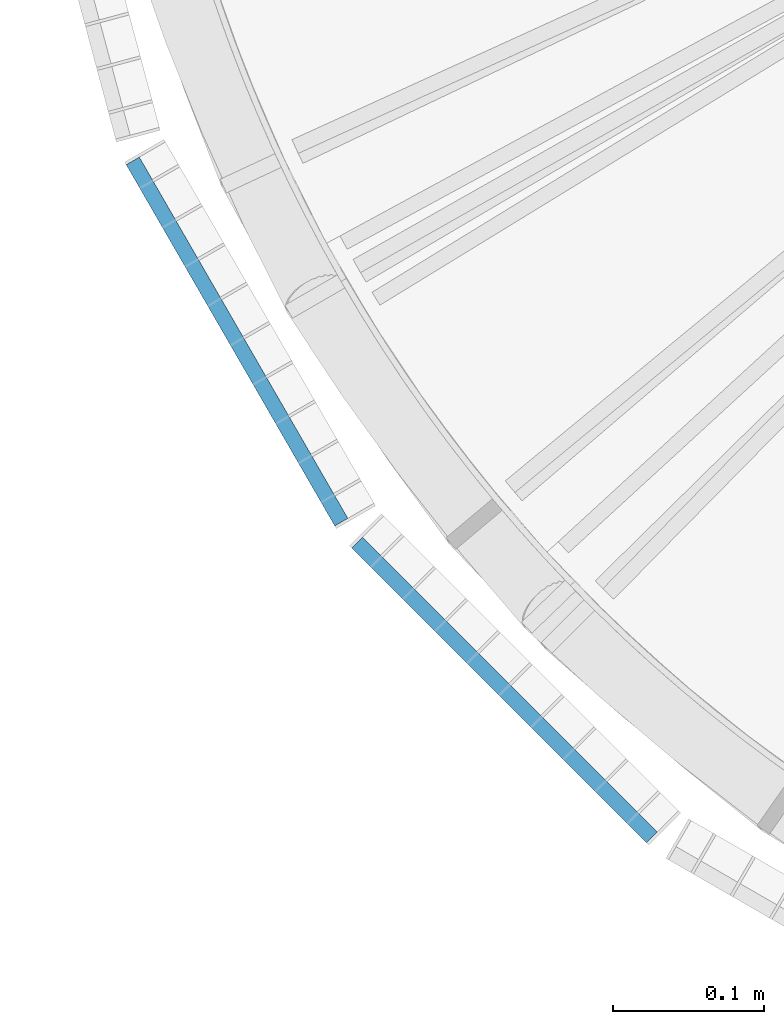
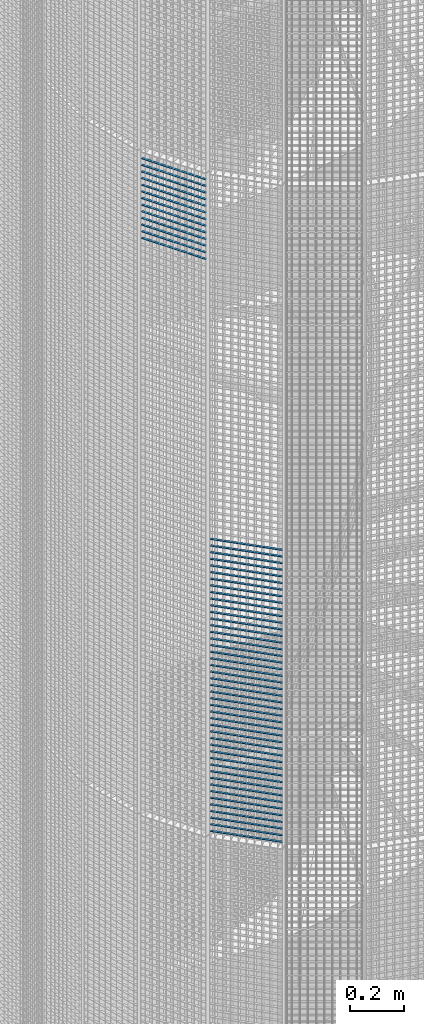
# One storey, part 110 of 1183: 58 beams, 2 elements without a shape of their own.
"""IFC2X3 building model written with IfcOpenShell, lengths in millimetres."""

from ifc_helpers import new_model, si_unit, frame, origin_with_axes, origin_2d_with_axis, place, context, subcontext, project, spatial, rectangle, extrude, material, type_object, element, aggregate, save


model = new_model("IFC2X3")

# Units and contexts
model_context = context("Model", 3, precision=1e-05, world=origin_with_axes())
body_context = subcontext(model_context, "Body", "Model", "MODEL_VIEW")
ifc_project = project(units=[si_unit("LENGTHUNIT", "METRE", prefix="MILLI"), si_unit("AREAUNIT", "SQUARE_METRE"), si_unit("VOLUMEUNIT", "CUBIC_METRE"), si_unit("MASSUNIT", "GRAM", prefix="KILO"), si_unit("TIMEUNIT", "SECOND"), si_unit("PLANEANGLEUNIT", "RADIAN"), si_unit("SOLIDANGLEUNIT", "STERADIAN"), si_unit("THERMODYNAMICTEMPERATUREUNIT", "DEGREE_CELSIUS"), si_unit("LUMINOUSINTENSITYUNIT", "LUMEN")], contexts=[model_context])

# Site, building, storey
site_placement = place(None, origin_with_axes())
site = spatial("IfcSite", under=ifc_project, at=site_placement, Name="Undefined", CompositionType="ELEMENT")
building_placement = place(site_placement, origin_with_axes())
building = spatial("IfcBuilding", under=site, at=building_placement, Name="Undefined", CompositionType="ELEMENT")
storey_placement = place(building_placement, origin_with_axes())
storey = spatial("IfcBuildingStorey", under=building, at=storey_placement, Name="Undefined", CompositionType="ELEMENT", Elevation=0.0)

# Assembly, beams
assembly_1_placement = place(storey_placement, origin_with_axes())
assembly_1 = element("IfcElementAssembly", 1, at=assembly_1_placement, inside=storey, Name="BORDURE", AssemblyPlace="NOTDEFINED", PredefinedType="NOTDEFINED")
ifc_material = material(Name="STEEL/S235JR")
beam_type = type_object("IfcBeamType", Name="PL2*10", PredefinedType="NOTDEFINED")
beam_1_placement = place(assembly_1_placement, frame((-884.927168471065, -689.771348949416, 13350.0), z_axis=(-0.70710678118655, -0.707106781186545, 0.0), x_axis=(0.707106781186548, -0.707106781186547, 0.0)))
beam_1 = element("IfcBeam", 2, at=beam_1_placement, type_object=beam_type, material=ifc_material, Name="ENTRETOISE", context=body_context, shape_type="SweptSolid", body=[
    extrude(rectangle(XDim=2.0, YDim=10.0, at=origin_2d_with_axis()), frame((275.999999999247, 9.09494701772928e-13, 1.53210777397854e-14), z_axis=(-1.0, 0.0, 0.0), x_axis=(0.0, -1.0, 0.0)), (0.0, 0.0, 1.0), 276.0),
])
beam_2_placement = place(assembly_1_placement, frame((-884.927168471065, -689.771348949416, 13320.0), z_axis=(-0.70710678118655, -0.707106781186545, 0.0), x_axis=(0.707106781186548, -0.707106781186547, 0.0)))
beam_2 = element("IfcBeam", 3, at=beam_2_placement, type_object=beam_type, material=ifc_material, Name="ENTRETOISE", context=body_context, shape_type="SweptSolid", body=[
    extrude(rectangle(XDim=2.0, YDim=10.0, at=origin_2d_with_axis()), frame((275.999999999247, 9.09494701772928e-13, 1.53210777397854e-14), z_axis=(-1.0, 0.0, 0.0), x_axis=(0.0, -1.0, 0.0)), (0.0, 0.0, 1.0), 276.0),
])
beam_3_placement = place(assembly_1_placement, frame((-884.927168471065, -689.771348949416, 13290.0), z_axis=(-0.70710678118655, -0.707106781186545, 0.0), x_axis=(0.707106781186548, -0.707106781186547, 0.0)))
beam_3 = element("IfcBeam", 4, at=beam_3_placement, type_object=beam_type, material=ifc_material, Name="ENTRETOISE", context=body_context, shape_type="SweptSolid", body=[
    extrude(rectangle(XDim=2.0, YDim=10.0, at=origin_2d_with_axis()), frame((275.999999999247, 9.09494701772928e-13, 1.53210777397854e-14), z_axis=(-1.0, 0.0, 0.0), x_axis=(0.0, -1.0, 0.0)), (0.0, 0.0, 1.0), 276.0),
])
beam_4_placement = place(assembly_1_placement, frame((-884.927168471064, -689.771348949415, 13260.0), z_axis=(-0.70710678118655, -0.707106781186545, 0.0), x_axis=(0.707106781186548, -0.707106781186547, 0.0)))
beam_4 = element("IfcBeam", 5, at=beam_4_placement, type_object=beam_type, material=ifc_material, Name="ENTRETOISE", context=body_context, shape_type="SweptSolid", body=[
    extrude(rectangle(XDim=2.0, YDim=10.0, at=origin_2d_with_axis()), frame((275.999999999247, 9.09494701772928e-13, 1.53210777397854e-14), z_axis=(-1.0, 0.0, 0.0), x_axis=(0.0, -1.0, 0.0)), (0.0, 0.0, 1.0), 276.0),
])
beam_5_placement = place(assembly_1_placement, frame((-884.927168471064, -689.771348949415, 13230.0), z_axis=(-0.70710678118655, -0.707106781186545, 0.0), x_axis=(0.707106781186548, -0.707106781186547, 0.0)))
beam_5 = element("IfcBeam", 6, at=beam_5_placement, type_object=beam_type, material=ifc_material, Name="ENTRETOISE", context=body_context, shape_type="SweptSolid", body=[
    extrude(rectangle(XDim=2.0, YDim=10.0, at=origin_2d_with_axis()), frame((275.999999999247, 9.09494701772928e-13, 1.53210777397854e-14), z_axis=(-1.0, 0.0, 0.0), x_axis=(0.0, -1.0, 0.0)), (0.0, 0.0, 1.0), 276.0),
])
beam_6_placement = place(assembly_1_placement, frame((-884.927168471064, -689.771348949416, 13200.0), z_axis=(-0.70710678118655, -0.707106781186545, 0.0), x_axis=(0.707106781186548, -0.707106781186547, 0.0)))
beam_6 = element("IfcBeam", 7, at=beam_6_placement, type_object=beam_type, material=ifc_material, Name="ENTRETOISE", context=body_context, shape_type="SweptSolid", body=[
    extrude(rectangle(XDim=2.0, YDim=10.0, at=origin_2d_with_axis()), frame((275.999999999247, 9.09494701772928e-13, 1.53210777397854e-14), z_axis=(-1.0, 0.0, 0.0), x_axis=(0.0, -1.0, 0.0)), (0.0, 0.0, 1.0), 276.0),
])
beam_7_placement = place(assembly_1_placement, frame((-884.927168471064, -689.771348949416, 13170.0), z_axis=(-0.70710678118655, -0.707106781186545, 0.0), x_axis=(0.707106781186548, -0.707106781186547, 0.0)))
beam_7 = element("IfcBeam", 8, at=beam_7_placement, type_object=beam_type, material=ifc_material, Name="ENTRETOISE", context=body_context, shape_type="SweptSolid", body=[
    extrude(rectangle(XDim=2.0, YDim=10.0, at=origin_2d_with_axis()), frame((275.999999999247, 9.09494701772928e-13, 1.53210777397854e-14), z_axis=(-1.0, 0.0, 0.0), x_axis=(0.0, -1.0, 0.0)), (0.0, 0.0, 1.0), 276.0),
])
beam_8_placement = place(assembly_1_placement, frame((-884.927168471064, -689.771348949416, 13140.0), z_axis=(-0.70710678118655, -0.707106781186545, 0.0), x_axis=(0.707106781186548, -0.707106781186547, 0.0)))
beam_8 = element("IfcBeam", 9, at=beam_8_placement, type_object=beam_type, material=ifc_material, Name="ENTRETOISE", context=body_context, shape_type="SweptSolid", body=[
    extrude(rectangle(XDim=2.0, YDim=10.0, at=origin_2d_with_axis()), frame((275.999999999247, 9.09494701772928e-13, 1.53210777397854e-14), z_axis=(-1.0, 0.0, 0.0), x_axis=(0.0, -1.0, 0.0)), (0.0, 0.0, 1.0), 276.0),
])
beam_9_placement = place(assembly_1_placement, frame((-884.927168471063, -689.771348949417, 12720.0), z_axis=(-0.70710678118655, -0.707106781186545, 0.0), x_axis=(0.707106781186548, -0.707106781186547, 0.0)))
beam_9 = element("IfcBeam", 10, at=beam_9_placement, type_object=beam_type, material=ifc_material, Name="ENTRETOISE", context=body_context, shape_type="SweptSolid", body=[
    extrude(rectangle(XDim=2.0, YDim=10.0, at=origin_2d_with_axis()), frame((275.999999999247, 9.09494701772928e-13, 1.53210777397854e-14), z_axis=(-1.0, 0.0, 0.0), x_axis=(0.0, -1.0, 0.0)), (0.0, 0.0, 1.0), 276.0),
])
beam_10_placement = place(assembly_1_placement, frame((-884.927168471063, -689.771348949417, 12690.0), z_axis=(-0.70710678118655, -0.707106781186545, 0.0), x_axis=(0.707106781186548, -0.707106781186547, 0.0)))
beam_10 = element("IfcBeam", 11, at=beam_10_placement, type_object=beam_type, material=ifc_material, Name="ENTRETOISE", context=body_context, shape_type="SweptSolid", body=[
    extrude(rectangle(XDim=2.0, YDim=10.0, at=origin_2d_with_axis()), frame((275.999999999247, 9.09494701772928e-13, 1.53210777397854e-14), z_axis=(-1.0, 0.0, 0.0), x_axis=(0.0, -1.0, 0.0)), (0.0, 0.0, 1.0), 276.0),
])
beam_11_placement = place(assembly_1_placement, frame((-884.927168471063, -689.771348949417, 12750.0), z_axis=(-0.70710678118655, -0.707106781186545, 0.0), x_axis=(0.707106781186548, -0.707106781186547, 0.0)))
beam_11 = element("IfcBeam", 12, at=beam_11_placement, type_object=beam_type, material=ifc_material, Name="ENTRETOISE", context=body_context, shape_type="SweptSolid", body=[
    extrude(rectangle(XDim=2.0, YDim=10.0, at=origin_2d_with_axis()), frame((275.999999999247, 9.09494701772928e-13, 1.53210777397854e-14), z_axis=(-1.0, 0.0, 0.0), x_axis=(0.0, -1.0, 0.0)), (0.0, 0.0, 1.0), 276.0),
])
beam_12_placement = place(assembly_1_placement, frame((-884.927168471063, -689.771348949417, 12660.0), z_axis=(-0.70710678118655, -0.707106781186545, 0.0), x_axis=(0.707106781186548, -0.707106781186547, 0.0)))
beam_12 = element("IfcBeam", 13, at=beam_12_placement, type_object=beam_type, material=ifc_material, Name="ENTRETOISE", context=body_context, shape_type="SweptSolid", body=[
    extrude(rectangle(XDim=2.0, YDim=10.0, at=origin_2d_with_axis()), frame((275.999999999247, 9.09494701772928e-13, 1.53210777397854e-14), z_axis=(-1.0, 0.0, 0.0), x_axis=(0.0, -1.0, 0.0)), (0.0, 0.0, 1.0), 276.0),
])
beam_13_placement = place(assembly_1_placement, frame((-884.927168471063, -689.771348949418, 12630.0), z_axis=(-0.70710678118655, -0.707106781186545, 0.0), x_axis=(0.707106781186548, -0.707106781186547, 0.0)))
beam_13 = element("IfcBeam", 14, at=beam_13_placement, type_object=beam_type, material=ifc_material, Name="ENTRETOISE", context=body_context, shape_type="SweptSolid", body=[
    extrude(rectangle(XDim=2.0, YDim=10.0, at=origin_2d_with_axis()), frame((275.999999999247, 9.09494701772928e-13, 1.53210777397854e-14), z_axis=(-1.0, 0.0, 0.0), x_axis=(0.0, -1.0, 0.0)), (0.0, 0.0, 1.0), 276.0),
])
beam_14_placement = place(assembly_1_placement, frame((-884.927168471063, -689.771348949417, 12780.0), z_axis=(-0.70710678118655, -0.707106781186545, 0.0), x_axis=(0.707106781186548, -0.707106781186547, 0.0)))
beam_14 = element("IfcBeam", 15, at=beam_14_placement, type_object=beam_type, material=ifc_material, Name="ENTRETOISE", context=body_context, shape_type="SweptSolid", body=[
    extrude(rectangle(XDim=2.0, YDim=10.0, at=origin_2d_with_axis()), frame((275.999999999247, 9.09494701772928e-13, 1.53210777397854e-14), z_axis=(-1.0, 0.0, 0.0), x_axis=(0.0, -1.0, 0.0)), (0.0, 0.0, 1.0), 276.0),
])
beam_15_placement = place(assembly_1_placement, frame((-884.927168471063, -689.771348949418, 12600.0), z_axis=(-0.70710678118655, -0.707106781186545, 0.0), x_axis=(0.707106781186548, -0.707106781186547, 0.0)))
beam_15 = element("IfcBeam", 16, at=beam_15_placement, type_object=beam_type, material=ifc_material, Name="ENTRETOISE", context=body_context, shape_type="SweptSolid", body=[
    extrude(rectangle(XDim=2.0, YDim=10.0, at=origin_2d_with_axis()), frame((275.999999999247, 9.09494701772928e-13, 1.53210777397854e-14), z_axis=(-1.0, 0.0, 0.0), x_axis=(0.0, -1.0, 0.0)), (0.0, 0.0, 1.0), 276.0),
])
beam_16_placement = place(assembly_1_placement, frame((-884.927168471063, -689.771348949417, 12810.0), z_axis=(-0.70710678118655, -0.707106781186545, 0.0), x_axis=(0.707106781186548, -0.707106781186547, 0.0)))
beam_16 = element("IfcBeam", 17, at=beam_16_placement, type_object=beam_type, material=ifc_material, Name="ENTRETOISE", context=body_context, shape_type="SweptSolid", body=[
    extrude(rectangle(XDim=2.0, YDim=10.0, at=origin_2d_with_axis()), frame((275.999999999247, 9.09494701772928e-13, 1.53210777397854e-14), z_axis=(-1.0, 0.0, 0.0), x_axis=(0.0, -1.0, 0.0)), (0.0, 0.0, 1.0), 276.0),
])
beam_17_placement = place(assembly_1_placement, frame((-884.927168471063, -689.771348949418, 12570.0), z_axis=(-0.70710678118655, -0.707106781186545, 0.0), x_axis=(0.707106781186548, -0.707106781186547, 0.0)))
beam_17 = element("IfcBeam", 18, at=beam_17_placement, type_object=beam_type, material=ifc_material, Name="ENTRETOISE", context=body_context, shape_type="SweptSolid", body=[
    extrude(rectangle(XDim=2.0, YDim=10.0, at=origin_2d_with_axis()), frame((275.999999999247, 9.09494701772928e-13, 1.53210777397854e-14), z_axis=(-1.0, 0.0, 0.0), x_axis=(0.0, -1.0, 0.0)), (0.0, 0.0, 1.0), 276.0),
])
beam_18_placement = place(assembly_1_placement, frame((-884.927168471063, -689.771348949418, 12540.0), z_axis=(-0.70710678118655, -0.707106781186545, 0.0), x_axis=(0.707106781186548, -0.707106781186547, 0.0)))
beam_18 = element("IfcBeam", 19, at=beam_18_placement, type_object=beam_type, material=ifc_material, Name="ENTRETOISE", context=body_context, shape_type="SweptSolid", body=[
    extrude(rectangle(XDim=2.0, YDim=10.0, at=origin_2d_with_axis()), frame((275.999999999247, 9.09494701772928e-13, 1.53210777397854e-14), z_axis=(-1.0, 0.0, 0.0), x_axis=(0.0, -1.0, 0.0)), (0.0, 0.0, 1.0), 276.0),
])
beam_19_placement = place(assembly_1_placement, frame((-884.927168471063, -689.771348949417, 12840.0), z_axis=(-0.70710678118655, -0.707106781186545, 0.0), x_axis=(0.707106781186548, -0.707106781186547, 0.0)))
beam_19 = element("IfcBeam", 20, at=beam_19_placement, type_object=beam_type, material=ifc_material, Name="ENTRETOISE", context=body_context, shape_type="SweptSolid", body=[
    extrude(rectangle(XDim=2.0, YDim=10.0, at=origin_2d_with_axis()), frame((275.999999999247, 9.09494701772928e-13, 1.53210777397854e-14), z_axis=(-1.0, 0.0, 0.0), x_axis=(0.0, -1.0, 0.0)), (0.0, 0.0, 1.0), 276.0),
])
beam_20_placement = place(assembly_1_placement, frame((-884.927168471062, -689.771348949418, 12510.0), z_axis=(-0.70710678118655, -0.707106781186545, 0.0), x_axis=(0.707106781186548, -0.707106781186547, 0.0)))
beam_20 = element("IfcBeam", 21, at=beam_20_placement, type_object=beam_type, material=ifc_material, Name="ENTRETOISE", context=body_context, shape_type="SweptSolid", body=[
    extrude(rectangle(XDim=2.0, YDim=10.0, at=origin_2d_with_axis()), frame((275.999999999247, 9.09494701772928e-13, 1.53210777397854e-14), z_axis=(-1.0, 0.0, 0.0), x_axis=(0.0, -1.0, 0.0)), (0.0, 0.0, 1.0), 276.0),
])
beam_21_placement = place(assembly_1_placement, frame((-884.927168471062, -689.771348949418, 12480.0), z_axis=(-0.70710678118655, -0.707106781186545, 0.0), x_axis=(0.707106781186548, -0.707106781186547, 0.0)))
beam_21 = element("IfcBeam", 22, at=beam_21_placement, type_object=beam_type, material=ifc_material, Name="ENTRETOISE", context=body_context, shape_type="SweptSolid", body=[
    extrude(rectangle(XDim=2.0, YDim=10.0, at=origin_2d_with_axis()), frame((275.999999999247, 9.09494701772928e-13, 1.53210777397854e-14), z_axis=(-1.0, 0.0, 0.0), x_axis=(0.0, -1.0, 0.0)), (0.0, 0.0, 1.0), 276.0),
])
beam_22_placement = place(assembly_1_placement, frame((-884.927168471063, -689.771348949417, 12870.0), z_axis=(-0.70710678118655, -0.707106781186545, 0.0), x_axis=(0.707106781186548, -0.707106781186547, 0.0)))
beam_22 = element("IfcBeam", 23, at=beam_22_placement, type_object=beam_type, material=ifc_material, Name="ENTRETOISE", context=body_context, shape_type="SweptSolid", body=[
    extrude(rectangle(XDim=2.0, YDim=10.0, at=origin_2d_with_axis()), frame((275.999999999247, 9.09494701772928e-13, 1.53210777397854e-14), z_axis=(-1.0, 0.0, 0.0), x_axis=(0.0, -1.0, 0.0)), (0.0, 0.0, 1.0), 276.0),
])
beam_23_placement = place(assembly_1_placement, frame((-884.927168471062, -689.771348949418, 12450.0), z_axis=(-0.70710678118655, -0.707106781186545, 0.0), x_axis=(0.707106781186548, -0.707106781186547, 0.0)))
beam_23 = element("IfcBeam", 24, at=beam_23_placement, type_object=beam_type, material=ifc_material, Name="ENTRETOISE", context=body_context, shape_type="SweptSolid", body=[
    extrude(rectangle(XDim=2.0, YDim=10.0, at=origin_2d_with_axis()), frame((275.999999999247, 9.09494701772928e-13, 1.53210777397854e-14), z_axis=(-1.0, 0.0, 0.0), x_axis=(0.0, -1.0, 0.0)), (0.0, 0.0, 1.0), 276.0),
])
beam_24_placement = place(assembly_1_placement, frame((-884.927168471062, -689.771348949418, 12420.0), z_axis=(-0.70710678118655, -0.707106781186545, 0.0), x_axis=(0.707106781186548, -0.707106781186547, 0.0)))
beam_24 = element("IfcBeam", 25, at=beam_24_placement, type_object=beam_type, material=ifc_material, Name="ENTRETOISE", context=body_context, shape_type="SweptSolid", body=[
    extrude(rectangle(XDim=2.0, YDim=10.0, at=origin_2d_with_axis()), frame((275.999999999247, 9.09494701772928e-13, 1.53210777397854e-14), z_axis=(-1.0, 0.0, 0.0), x_axis=(0.0, -1.0, 0.0)), (0.0, 0.0, 1.0), 276.0),
])
beam_25_placement = place(assembly_1_placement, frame((-884.927168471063, -689.771348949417, 12900.0), z_axis=(-0.70710678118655, -0.707106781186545, 0.0), x_axis=(0.707106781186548, -0.707106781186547, 0.0)))
beam_25 = element("IfcBeam", 26, at=beam_25_placement, type_object=beam_type, material=ifc_material, Name="ENTRETOISE", context=body_context, shape_type="SweptSolid", body=[
    extrude(rectangle(XDim=2.0, YDim=10.0, at=origin_2d_with_axis()), frame((275.999999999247, 9.09494701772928e-13, 1.53210777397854e-14), z_axis=(-1.0, 0.0, 0.0), x_axis=(0.0, -1.0, 0.0)), (0.0, 0.0, 1.0), 276.0),
])
beam_26_placement = place(assembly_1_placement, frame((-884.927168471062, -689.771348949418, 12390.0), z_axis=(-0.70710678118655, -0.707106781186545, 0.0), x_axis=(0.707106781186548, -0.707106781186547, 0.0)))
beam_26 = element("IfcBeam", 27, at=beam_26_placement, type_object=beam_type, material=ifc_material, Name="ENTRETOISE", context=body_context, shape_type="SweptSolid", body=[
    extrude(rectangle(XDim=2.0, YDim=10.0, at=origin_2d_with_axis()), frame((275.999999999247, 9.09494701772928e-13, 1.53210777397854e-14), z_axis=(-1.0, 0.0, 0.0), x_axis=(0.0, -1.0, 0.0)), (0.0, 0.0, 1.0), 276.0),
])
beam_27_placement = place(assembly_1_placement, frame((-884.927168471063, -689.771348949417, 12930.0), z_axis=(-0.70710678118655, -0.707106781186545, 0.0), x_axis=(0.707106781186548, -0.707106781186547, 0.0)))
beam_27 = element("IfcBeam", 28, at=beam_27_placement, type_object=beam_type, material=ifc_material, Name="ENTRETOISE", context=body_context, shape_type="SweptSolid", body=[
    extrude(rectangle(XDim=2.0, YDim=10.0, at=origin_2d_with_axis()), frame((275.999999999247, 9.09494701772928e-13, 1.53210777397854e-14), z_axis=(-1.0, 0.0, 0.0), x_axis=(0.0, -1.0, 0.0)), (0.0, 0.0, 1.0), 276.0),
])
beam_28_placement = place(assembly_1_placement, frame((-884.927168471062, -689.771348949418, 12360.0), z_axis=(-0.70710678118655, -0.707106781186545, 0.0), x_axis=(0.707106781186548, -0.707106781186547, 0.0)))
beam_28 = element("IfcBeam", 29, at=beam_28_placement, type_object=beam_type, material=ifc_material, Name="ENTRETOISE", context=body_context, shape_type="SweptSolid", body=[
    extrude(rectangle(XDim=2.0, YDim=10.0, at=origin_2d_with_axis()), frame((275.999999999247, 9.09494701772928e-13, 1.53210777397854e-14), z_axis=(-1.0, 0.0, 0.0), x_axis=(0.0, -1.0, 0.0)), (0.0, 0.0, 1.0), 276.0),
])
beam_29_placement = place(assembly_1_placement, frame((-884.927168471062, -689.771348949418, 12330.0), z_axis=(-0.70710678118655, -0.707106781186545, 0.0), x_axis=(0.707106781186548, -0.707106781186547, 0.0)))
beam_29 = element("IfcBeam", 30, at=beam_29_placement, type_object=beam_type, material=ifc_material, Name="ENTRETOISE", context=body_context, shape_type="SweptSolid", body=[
    extrude(rectangle(XDim=2.0, YDim=10.0, at=origin_2d_with_axis()), frame((275.999999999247, 9.09494701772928e-13, 1.53210777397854e-14), z_axis=(-1.0, 0.0, 0.0), x_axis=(0.0, -1.0, 0.0)), (0.0, 0.0, 1.0), 276.0),
])
beam_30_placement = place(assembly_1_placement, frame((-884.927168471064, -689.771348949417, 12960.0), z_axis=(-0.70710678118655, -0.707106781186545, 0.0), x_axis=(0.707106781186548, -0.707106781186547, 0.0)))
beam_30 = element("IfcBeam", 31, at=beam_30_placement, type_object=beam_type, material=ifc_material, Name="ENTRETOISE", context=body_context, shape_type="SweptSolid", body=[
    extrude(rectangle(XDim=2.0, YDim=10.0, at=origin_2d_with_axis()), frame((275.999999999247, 9.09494701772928e-13, 1.53210777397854e-14), z_axis=(-1.0, 0.0, 0.0), x_axis=(0.0, -1.0, 0.0)), (0.0, 0.0, 1.0), 276.0),
])
beam_31_placement = place(assembly_1_placement, frame((-884.927168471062, -689.771348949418, 12300.0), z_axis=(-0.70710678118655, -0.707106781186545, 0.0), x_axis=(0.707106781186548, -0.707106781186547, 0.0)))
beam_31 = element("IfcBeam", 32, at=beam_31_placement, type_object=beam_type, material=ifc_material, Name="ENTRETOISE", context=body_context, shape_type="SweptSolid", body=[
    extrude(rectangle(XDim=2.0, YDim=10.0, at=origin_2d_with_axis()), frame((275.999999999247, 9.09494701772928e-13, 1.53210777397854e-14), z_axis=(-1.0, 0.0, 0.0), x_axis=(0.0, -1.0, 0.0)), (0.0, 0.0, 1.0), 276.0),
])
beam_32_placement = place(assembly_1_placement, frame((-884.927168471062, -689.771348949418, 12270.0), z_axis=(-0.70710678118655, -0.707106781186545, 0.0), x_axis=(0.707106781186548, -0.707106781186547, 0.0)))
beam_32 = element("IfcBeam", 33, at=beam_32_placement, type_object=beam_type, material=ifc_material, Name="ENTRETOISE", context=body_context, shape_type="SweptSolid", body=[
    extrude(rectangle(XDim=2.0, YDim=10.0, at=origin_2d_with_axis()), frame((275.999999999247, 9.09494701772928e-13, 1.53210777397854e-14), z_axis=(-1.0, 0.0, 0.0), x_axis=(0.0, -1.0, 0.0)), (0.0, 0.0, 1.0), 276.0),
])
beam_33_placement = place(assembly_1_placement, frame((-884.927168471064, -689.771348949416, 12990.0), z_axis=(-0.70710678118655, -0.707106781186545, 0.0), x_axis=(0.707106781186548, -0.707106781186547, 0.0)))
beam_33 = element("IfcBeam", 34, at=beam_33_placement, type_object=beam_type, material=ifc_material, Name="ENTRETOISE", context=body_context, shape_type="SweptSolid", body=[
    extrude(rectangle(XDim=2.0, YDim=10.0, at=origin_2d_with_axis()), frame((275.999999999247, 9.09494701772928e-13, 1.53210777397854e-14), z_axis=(-1.0, 0.0, 0.0), x_axis=(0.0, -1.0, 0.0)), (0.0, 0.0, 1.0), 276.0),
])
beam_34_placement = place(assembly_1_placement, frame((-884.927168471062, -689.771348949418, 12240.0), z_axis=(-0.70710678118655, -0.707106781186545, 0.0), x_axis=(0.707106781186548, -0.707106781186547, 0.0)))
beam_34 = element("IfcBeam", 35, at=beam_34_placement, type_object=beam_type, material=ifc_material, Name="ENTRETOISE", context=body_context, shape_type="SweptSolid", body=[
    extrude(rectangle(XDim=2.0, YDim=10.0, at=origin_2d_with_axis()), frame((275.999999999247, 9.09494701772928e-13, 1.53210777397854e-14), z_axis=(-1.0, 0.0, 0.0), x_axis=(0.0, -1.0, 0.0)), (0.0, 0.0, 1.0), 276.0),
])
beam_35_placement = place(assembly_1_placement, frame((-884.927168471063, -689.771348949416, 13020.0), z_axis=(-0.70710678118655, -0.707106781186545, 0.0), x_axis=(0.707106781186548, -0.707106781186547, 0.0)))
beam_35 = element("IfcBeam", 36, at=beam_35_placement, type_object=beam_type, material=ifc_material, Name="ENTRETOISE", context=body_context, shape_type="SweptSolid", body=[
    extrude(rectangle(XDim=2.0, YDim=10.0, at=origin_2d_with_axis()), frame((275.999999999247, 9.09494701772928e-13, 1.53210777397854e-14), z_axis=(-1.0, 0.0, 0.0), x_axis=(0.0, -1.0, 0.0)), (0.0, 0.0, 1.0), 276.0),
])
beam_36_placement = place(assembly_1_placement, frame((-884.927168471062, -689.771348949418, 12210.0), z_axis=(-0.70710678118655, -0.707106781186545, 0.0), x_axis=(0.707106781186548, -0.707106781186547, 0.0)))
beam_36 = element("IfcBeam", 37, at=beam_36_placement, type_object=beam_type, material=ifc_material, Name="ENTRETOISE", context=body_context, shape_type="SweptSolid", body=[
    extrude(rectangle(XDim=2.0, YDim=10.0, at=origin_2d_with_axis()), frame((275.999999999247, 9.09494701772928e-13, 1.53210777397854e-14), z_axis=(-1.0, 0.0, 0.0), x_axis=(0.0, -1.0, 0.0)), (0.0, 0.0, 1.0), 276.0),
])
beam_37_placement = place(assembly_1_placement, frame((-884.927168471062, -689.771348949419, 12180.0), z_axis=(-0.70710678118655, -0.707106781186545, 0.0), x_axis=(0.707106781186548, -0.707106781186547, 0.0)))
beam_37 = element("IfcBeam", 38, at=beam_37_placement, type_object=beam_type, material=ifc_material, Name="ENTRETOISE", context=body_context, shape_type="SweptSolid", body=[
    extrude(rectangle(XDim=2.0, YDim=10.0, at=origin_2d_with_axis()), frame((275.999999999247, 9.09494701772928e-13, 1.53210777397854e-14), z_axis=(-1.0, 0.0, 0.0), x_axis=(0.0, -1.0, 0.0)), (0.0, 0.0, 1.0), 276.0),
])
beam_38_placement = place(assembly_1_placement, frame((-884.927168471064, -689.771348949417, 13050.0), z_axis=(-0.70710678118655, -0.707106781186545, 0.0), x_axis=(0.707106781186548, -0.707106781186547, 0.0)))
beam_38 = element("IfcBeam", 39, at=beam_38_placement, type_object=beam_type, material=ifc_material, Name="ENTRETOISE", context=body_context, shape_type="SweptSolid", body=[
    extrude(rectangle(XDim=2.0, YDim=10.0, at=origin_2d_with_axis()), frame((275.999999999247, 9.09494701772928e-13, 1.53210777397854e-14), z_axis=(-1.0, 0.0, 0.0), x_axis=(0.0, -1.0, 0.0)), (0.0, 0.0, 1.0), 276.0),
])
beam_39_placement = place(assembly_1_placement, frame((-884.927168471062, -689.771348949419, 12150.0), z_axis=(-0.70710678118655, -0.707106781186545, 0.0), x_axis=(0.707106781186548, -0.707106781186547, 0.0)))
beam_39 = element("IfcBeam", 40, at=beam_39_placement, type_object=beam_type, material=ifc_material, Name="ENTRETOISE", context=body_context, shape_type="SweptSolid", body=[
    extrude(rectangle(XDim=2.0, YDim=10.0, at=origin_2d_with_axis()), frame((275.999999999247, 9.09494701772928e-13, 1.53210777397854e-14), z_axis=(-1.0, 0.0, 0.0), x_axis=(0.0, -1.0, 0.0)), (0.0, 0.0, 1.0), 276.0),
])
beam_40_placement = place(assembly_1_placement, frame((-884.927168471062, -689.771348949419, 12120.0), z_axis=(-0.70710678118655, -0.707106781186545, 0.0), x_axis=(0.707106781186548, -0.707106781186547, 0.0)))
beam_40 = element("IfcBeam", 41, at=beam_40_placement, type_object=beam_type, material=ifc_material, Name="ENTRETOISE", context=body_context, shape_type="SweptSolid", body=[
    extrude(rectangle(XDim=2.0, YDim=10.0, at=origin_2d_with_axis()), frame((275.999999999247, 9.09494701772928e-13, 1.53210777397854e-14), z_axis=(-1.0, 0.0, 0.0), x_axis=(0.0, -1.0, 0.0)), (0.0, 0.0, 1.0), 276.0),
])
beam_41_placement = place(assembly_1_placement, frame((-884.927168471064, -689.771348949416, 13080.0), z_axis=(-0.70710678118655, -0.707106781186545, 0.0), x_axis=(0.707106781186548, -0.707106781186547, 0.0)))
beam_41 = element("IfcBeam", 42, at=beam_41_placement, type_object=beam_type, material=ifc_material, Name="ENTRETOISE", context=body_context, shape_type="SweptSolid", body=[
    extrude(rectangle(XDim=2.0, YDim=10.0, at=origin_2d_with_axis()), frame((275.999999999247, 9.09494701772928e-13, 1.53210777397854e-14), z_axis=(-1.0, 0.0, 0.0), x_axis=(0.0, -1.0, 0.0)), (0.0, 0.0, 1.0), 276.0),
])
beam_42_placement = place(assembly_1_placement, frame((-884.927168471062, -689.771348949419, 12090.0), z_axis=(-0.70710678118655, -0.707106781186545, 0.0), x_axis=(0.707106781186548, -0.707106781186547, 0.0)))
beam_42 = element("IfcBeam", 43, at=beam_42_placement, type_object=beam_type, material=ifc_material, Name="ENTRETOISE", context=body_context, shape_type="SweptSolid", body=[
    extrude(rectangle(XDim=2.0, YDim=10.0, at=origin_2d_with_axis()), frame((275.999999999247, 9.09494701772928e-13, 1.53210777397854e-14), z_axis=(-1.0, 0.0, 0.0), x_axis=(0.0, -1.0, 0.0)), (0.0, 0.0, 1.0), 276.0),
])
beam_43_placement = place(assembly_1_placement, frame((-884.927168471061, -689.771348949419, 12060.0), z_axis=(-0.70710678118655, -0.707106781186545, 0.0), x_axis=(0.707106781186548, -0.707106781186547, 0.0)))
beam_43 = element("IfcBeam", 44, at=beam_43_placement, type_object=beam_type, material=ifc_material, Name="ENTRETOISE", context=body_context, shape_type="SweptSolid", body=[
    extrude(rectangle(XDim=2.0, YDim=10.0, at=origin_2d_with_axis()), frame((275.999999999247, 9.09494701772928e-13, 1.53210777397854e-14), z_axis=(-1.0, 0.0, 0.0), x_axis=(0.0, -1.0, 0.0)), (0.0, 0.0, 1.0), 276.0),
])
beam_44_placement = place(assembly_1_placement, frame((-884.927168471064, -689.771348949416, 13110.0), z_axis=(-0.70710678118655, -0.707106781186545, 0.0), x_axis=(0.707106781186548, -0.707106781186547, 0.0)))
beam_44 = element("IfcBeam", 45, at=beam_44_placement, type_object=beam_type, material=ifc_material, Name="ENTRETOISE", context=body_context, shape_type="SweptSolid", body=[
    extrude(rectangle(XDim=2.0, YDim=10.0, at=origin_2d_with_axis()), frame((275.999999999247, 9.09494701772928e-13, 1.53210777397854e-14), z_axis=(-1.0, 0.0, 0.0), x_axis=(0.0, -1.0, 0.0)), (0.0, 0.0, 1.0), 276.0),
])
beam_45_placement = place(assembly_1_placement, frame((-884.92716847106, -689.771348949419, 12030.0), z_axis=(-0.70710678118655, -0.707106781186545, 0.0), x_axis=(0.707106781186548, -0.707106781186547, 0.0)))
beam_45 = element("IfcBeam", 46, at=beam_45_placement, type_object=beam_type, material=ifc_material, Name="ENTRETOISE", context=body_context, shape_type="SweptSolid", body=[
    extrude(rectangle(XDim=2.0, YDim=10.0, at=origin_2d_with_axis()), frame((275.999999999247, 9.09494701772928e-13, 1.53210777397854e-14), z_axis=(-1.0, 0.0, 0.0), x_axis=(0.0, -1.0, 0.0)), (0.0, 0.0, 1.0), 276.0),
])
aggregate(assembly_1, [beam_1, beam_2, beam_3, beam_4, beam_5, beam_6, beam_7, beam_8, beam_9, beam_10, beam_11, beam_12, beam_13, beam_14, beam_15, beam_16, beam_17, beam_18, beam_19, beam_20, beam_21, beam_22, beam_23, beam_24, beam_25, beam_26, beam_27, beam_28, beam_29, beam_30, beam_31, beam_32, beam_33, beam_34, beam_35, beam_36, beam_37, beam_38, beam_39, beam_40, beam_41, beam_42, beam_43, beam_44, beam_45])

assembly_2_placement = place(storey_placement, origin_with_axes())
assembly_2 = element("IfcElementAssembly", 47, at=assembly_2_placement, inside=storey, Name="BORDURE", AssemblyPlace="NOTDEFINED", PredefinedType="NOTDEFINED")
beam_46_placement = place(assembly_2_placement, frame((-1033.29996828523, -437.231955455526, 14970.0), z_axis=(-0.866025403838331, -0.499999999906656, 0.0), x_axis=(0.499999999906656, -0.866025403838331, 0.0)))
beam_46 = element("IfcBeam", 48, at=beam_46_placement, type_object=beam_type, material=ifc_material, Name="ENTRETOISE", context=body_context, shape_type="SweptSolid", body=[
    extrude(rectangle(XDim=2.0, YDim=10.0, at=origin_2d_with_axis()), frame((275.999999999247, 9.09494701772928e-13, 1.53210777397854e-14), z_axis=(-1.0, 0.0, 0.0), x_axis=(0.0, -1.0, 0.0)), (0.0, 0.0, 1.0), 276.0),
])
beam_47_placement = place(assembly_2_placement, frame((-1033.29996828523, -437.231955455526, 14940.0), z_axis=(-0.866025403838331, -0.499999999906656, 0.0), x_axis=(0.499999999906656, -0.866025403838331, 0.0)))
beam_47 = element("IfcBeam", 49, at=beam_47_placement, type_object=beam_type, material=ifc_material, Name="ENTRETOISE", context=body_context, shape_type="SweptSolid", body=[
    extrude(rectangle(XDim=2.0, YDim=10.0, at=origin_2d_with_axis()), frame((275.999999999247, 9.09494701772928e-13, 1.53210777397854e-14), z_axis=(-1.0, 0.0, 0.0), x_axis=(0.0, -1.0, 0.0)), (0.0, 0.0, 1.0), 276.0),
])
beam_48_placement = place(assembly_2_placement, frame((-1033.29996828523, -437.231955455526, 14910.0), z_axis=(-0.866025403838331, -0.499999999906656, 0.0), x_axis=(0.499999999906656, -0.866025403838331, 0.0)))
beam_48 = element("IfcBeam", 50, at=beam_48_placement, type_object=beam_type, material=ifc_material, Name="ENTRETOISE", context=body_context, shape_type="SweptSolid", body=[
    extrude(rectangle(XDim=2.0, YDim=10.0, at=origin_2d_with_axis()), frame((275.999999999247, 9.09494701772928e-13, 1.53210777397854e-14), z_axis=(-1.0, 0.0, 0.0), x_axis=(0.0, -1.0, 0.0)), (0.0, 0.0, 1.0), 276.0),
])
beam_49_placement = place(assembly_2_placement, frame((-1033.29996828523, -437.231955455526, 14880.0), z_axis=(-0.866025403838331, -0.499999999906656, 0.0), x_axis=(0.499999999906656, -0.866025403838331, 0.0)))
beam_49 = element("IfcBeam", 51, at=beam_49_placement, type_object=beam_type, material=ifc_material, Name="ENTRETOISE", context=body_context, shape_type="SweptSolid", body=[
    extrude(rectangle(XDim=2.0, YDim=10.0, at=origin_2d_with_axis()), frame((275.999999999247, 9.09494701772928e-13, 1.53210777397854e-14), z_axis=(-1.0, 0.0, 0.0), x_axis=(0.0, -1.0, 0.0)), (0.0, 0.0, 1.0), 276.0),
])
beam_50_placement = place(assembly_2_placement, frame((-1033.29996828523, -437.231955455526, 14850.0), z_axis=(-0.866025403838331, -0.499999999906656, 0.0), x_axis=(0.499999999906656, -0.866025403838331, 0.0)))
beam_50 = element("IfcBeam", 52, at=beam_50_placement, type_object=beam_type, material=ifc_material, Name="ENTRETOISE", context=body_context, shape_type="SweptSolid", body=[
    extrude(rectangle(XDim=2.0, YDim=10.0, at=origin_2d_with_axis()), frame((275.999999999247, 9.09494701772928e-13, 1.53210777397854e-14), z_axis=(-1.0, 0.0, 0.0), x_axis=(0.0, -1.0, 0.0)), (0.0, 0.0, 1.0), 276.0),
])
beam_51_placement = place(assembly_2_placement, frame((-1033.29996828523, -437.231955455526, 14820.0), z_axis=(-0.866025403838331, -0.499999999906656, 0.0), x_axis=(0.499999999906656, -0.866025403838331, 0.0)))
beam_51 = element("IfcBeam", 53, at=beam_51_placement, type_object=beam_type, material=ifc_material, Name="ENTRETOISE", context=body_context, shape_type="SweptSolid", body=[
    extrude(rectangle(XDim=2.0, YDim=10.0, at=origin_2d_with_axis()), frame((275.999999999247, 9.09494701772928e-13, 1.53210777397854e-14), z_axis=(-1.0, 0.0, 0.0), x_axis=(0.0, -1.0, 0.0)), (0.0, 0.0, 1.0), 276.0),
])
beam_52_placement = place(assembly_2_placement, frame((-1033.29996828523, -437.231955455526, 14790.0), z_axis=(-0.866025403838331, -0.499999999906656, 0.0), x_axis=(0.499999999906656, -0.866025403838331, 0.0)))
beam_52 = element("IfcBeam", 54, at=beam_52_placement, type_object=beam_type, material=ifc_material, Name="ENTRETOISE", context=body_context, shape_type="SweptSolid", body=[
    extrude(rectangle(XDim=2.0, YDim=10.0, at=origin_2d_with_axis()), frame((275.999999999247, 9.09494701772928e-13, 1.53210777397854e-14), z_axis=(-1.0, 0.0, 0.0), x_axis=(0.0, -1.0, 0.0)), (0.0, 0.0, 1.0), 276.0),
])
beam_53_placement = place(assembly_2_placement, frame((-1033.29996828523, -437.231955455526, 14760.0), z_axis=(-0.866025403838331, -0.499999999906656, 0.0), x_axis=(0.499999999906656, -0.866025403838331, 0.0)))
beam_53 = element("IfcBeam", 55, at=beam_53_placement, type_object=beam_type, material=ifc_material, Name="ENTRETOISE", context=body_context, shape_type="SweptSolid", body=[
    extrude(rectangle(XDim=2.0, YDim=10.0, at=origin_2d_with_axis()), frame((275.999999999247, 9.09494701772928e-13, 1.53210777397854e-14), z_axis=(-1.0, 0.0, 0.0), x_axis=(0.0, -1.0, 0.0)), (0.0, 0.0, 1.0), 276.0),
])
beam_54_placement = place(assembly_2_placement, frame((-1033.29996828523, -437.231955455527, 14730.0), z_axis=(-0.866025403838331, -0.499999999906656, 0.0), x_axis=(0.499999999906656, -0.866025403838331, 0.0)))
beam_54 = element("IfcBeam", 56, at=beam_54_placement, type_object=beam_type, material=ifc_material, Name="ENTRETOISE", context=body_context, shape_type="SweptSolid", body=[
    extrude(rectangle(XDim=2.0, YDim=10.0, at=origin_2d_with_axis()), frame((275.999999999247, 9.09494701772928e-13, 1.53210777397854e-14), z_axis=(-1.0, 0.0, 0.0), x_axis=(0.0, -1.0, 0.0)), (0.0, 0.0, 1.0), 276.0),
])
beam_55_placement = place(assembly_2_placement, frame((-1033.29996828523, -437.231955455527, 14700.0), z_axis=(-0.866025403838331, -0.499999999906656, 0.0), x_axis=(0.499999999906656, -0.866025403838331, 0.0)))
beam_55 = element("IfcBeam", 57, at=beam_55_placement, type_object=beam_type, material=ifc_material, Name="ENTRETOISE", context=body_context, shape_type="SweptSolid", body=[
    extrude(rectangle(XDim=2.0, YDim=10.0, at=origin_2d_with_axis()), frame((275.999999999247, 9.09494701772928e-13, 1.53210777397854e-14), z_axis=(-1.0, 0.0, 0.0), x_axis=(0.0, -1.0, 0.0)), (0.0, 0.0, 1.0), 276.0),
])
beam_56_placement = place(assembly_2_placement, frame((-1033.29996828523, -437.231955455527, 14670.0), z_axis=(-0.866025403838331, -0.499999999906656, 0.0), x_axis=(0.499999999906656, -0.866025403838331, 0.0)))
beam_56 = element("IfcBeam", 58, at=beam_56_placement, type_object=beam_type, material=ifc_material, Name="ENTRETOISE", context=body_context, shape_type="SweptSolid", body=[
    extrude(rectangle(XDim=2.0, YDim=10.0, at=origin_2d_with_axis()), frame((275.999999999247, 9.09494701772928e-13, 1.53210777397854e-14), z_axis=(-1.0, 0.0, 0.0), x_axis=(0.0, -1.0, 0.0)), (0.0, 0.0, 1.0), 276.0),
])
beam_57_placement = place(assembly_2_placement, frame((-1033.29996828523, -437.231955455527, 14640.0), z_axis=(-0.866025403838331, -0.499999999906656, 0.0), x_axis=(0.499999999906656, -0.866025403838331, 0.0)))
beam_57 = element("IfcBeam", 59, at=beam_57_placement, type_object=beam_type, material=ifc_material, Name="ENTRETOISE", context=body_context, shape_type="SweptSolid", body=[
    extrude(rectangle(XDim=2.0, YDim=10.0, at=origin_2d_with_axis()), frame((275.999999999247, 9.09494701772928e-13, 1.53210777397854e-14), z_axis=(-1.0, 0.0, 0.0), x_axis=(0.0, -1.0, 0.0)), (0.0, 0.0, 1.0), 276.0),
])
beam_58_placement = place(assembly_2_placement, frame((-1033.29996828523, -437.231955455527, 14610.0), z_axis=(-0.866025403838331, -0.499999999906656, 0.0), x_axis=(0.499999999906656, -0.866025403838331, 0.0)))
beam_58 = element("IfcBeam", 60, at=beam_58_placement, type_object=beam_type, material=ifc_material, Name="ENTRETOISE", context=body_context, shape_type="SweptSolid", body=[
    extrude(rectangle(XDim=2.0, YDim=10.0, at=origin_2d_with_axis()), frame((275.999999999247, 9.09494701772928e-13, 1.53210777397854e-14), z_axis=(-1.0, 0.0, 0.0), x_axis=(0.0, -1.0, 0.0)), (0.0, 0.0, 1.0), 276.0),
])
aggregate(assembly_2, [beam_46, beam_47, beam_48, beam_49, beam_50, beam_51, beam_52, beam_53, beam_54, beam_55, beam_56, beam_57, beam_58])

save(model, "model.ifc")
